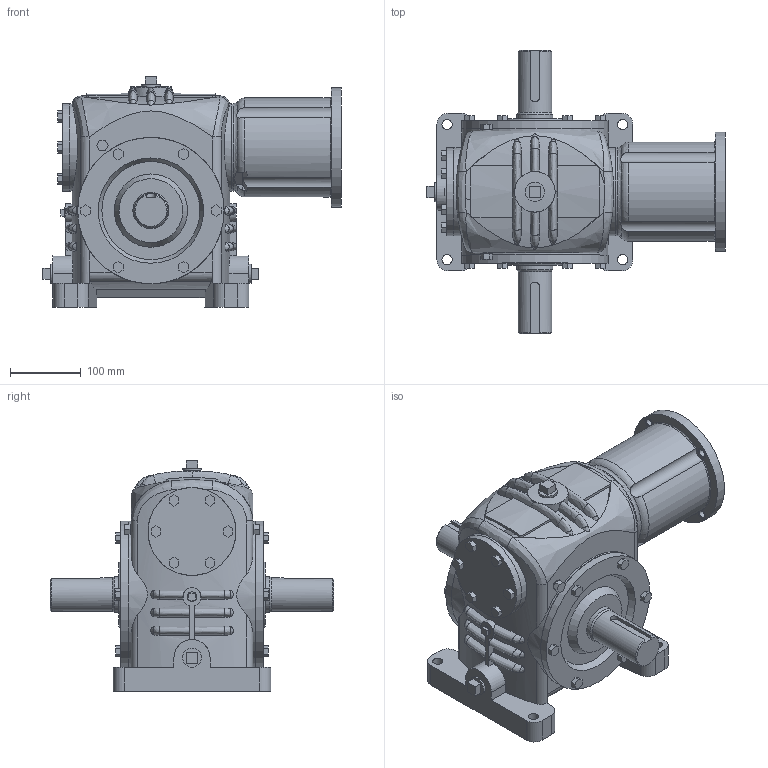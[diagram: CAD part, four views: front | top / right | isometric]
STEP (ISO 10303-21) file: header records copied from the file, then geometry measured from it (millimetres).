
FILE_DESCRIPTION(/* description */ ('Unknown'),/* implementation_level */ '2;1');
FILE_NAME(/* name */ 'HO-35-3--BNG010',/* time_stamp */ '2024-11-21T09:42:13-05:00',/* author */ ('Unknown'),/* organization */ ('Unknown'),/* preprocessor_version */ 'ST-DEVELOPER v19.4',/* originating_system */ 'Solid Edge',/* authorisation */ 'Unknown');
FILE_SCHEMA (('AUTOMOTIVE_DESIGN {1 0 10303 214 3 1 1}'));
Length unit declared in the file: millimetre
Products named in the file (5): HO-35-3--BNG010; 35-1-CP; 35-OUTS; 35-MTR45-56C; 35-WCAP
Assembly tree (5 placements, depth 2):
  HO-35-3--BNG010
    35-1-CP
    35-OUTS  x2
    35-MTR45-56C
    35-WCAP
Bounding box: 420.67 x 400.05 x 325.31 mm (x, y, z)
Volume: 11589010.7 mm3; surface area: 827116.5 mm2
Topology: 5 solids, 5 shells, 540 faces, 1355 edges, 898 vertices
Faces by surface type: plane 322, cylinder 121, bspline 62, cone 18, torus 17
Full cylindrical faces by diameter (mm): 0.254 x9, 7.62 x1, 10.319 x4, 12.7 x7, 14.287 x10, 15.081 x4, 30.15 x1, 47.612 x2, 50.8 x2, 63.5 x1, 65.024 x1, 101.6 x1, 102.108 x1, 114.338 x1, 123.825 x1, 123.952 x3, 168.148 x1, 206.375 x4
Entity records: 19194 total; most frequent: CARTESIAN_POINT 7078, ORIENTED_EDGE 2234, DIRECTION 1949, EDGE_CURVE 1117, VERTEX_POINT 777, AXIS2_PLACEMENT_3D 671, EDGE_LOOP 620, FACE_BOUND 620
